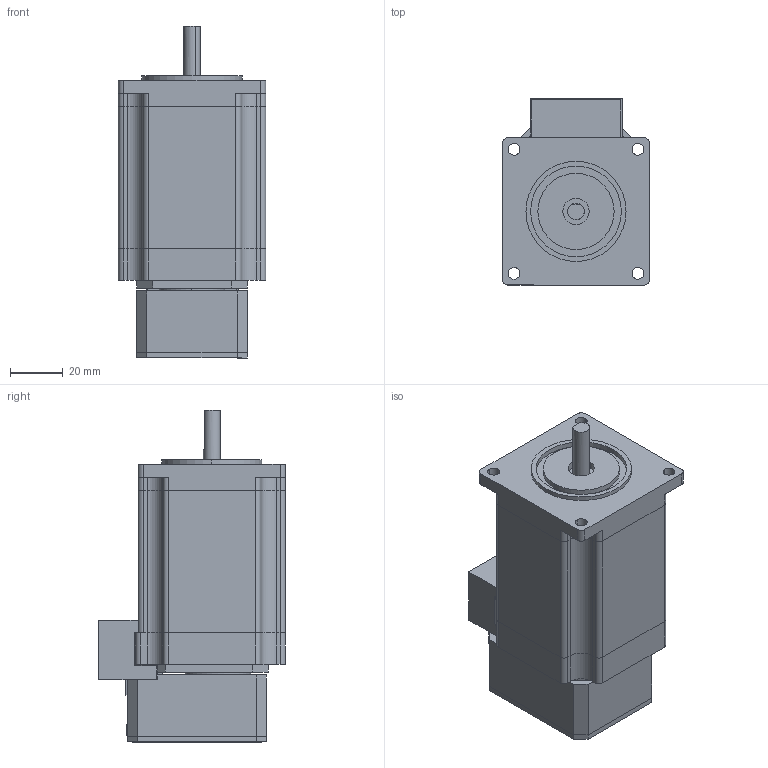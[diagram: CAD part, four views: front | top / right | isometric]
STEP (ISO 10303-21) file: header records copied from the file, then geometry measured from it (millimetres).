
FILE_DESCRIPTION (( 'STEP AP203' ), '1' );
FILE_NAME ('CM1-X-23L20.STEP', '2010-07-14T19:49:36', ( 'render' ), ( '' ), 'SwSTEP 2.0', 'SolidWorks 2009', '' );
FILE_SCHEMA (( 'CONFIG_CONTROL_DESIGN' ));
Length unit declared in the file: millimetre
Products named in the file (1): CM1-X-23L20
Bounding box: 56.02 x 71.02 x 126.3 mm (x, y, z)
Volume: 249430.6 mm3; surface area: 65996.3 mm2
Topology: 10 solids, 10 shells, 748 faces, 1984 edges, 1284 vertices
Faces by surface type: plane 577, cylinder 171
Entity records: 23009 total; most frequent: CARTESIAN_POINT 4017, ORIENTED_EDGE 3968, DIRECTION 3832, EDGE_CURVE 1984, LINE 1634, VECTOR 1634, VERTEX_POINT 1284, AXIS2_PLACEMENT_3D 1099
